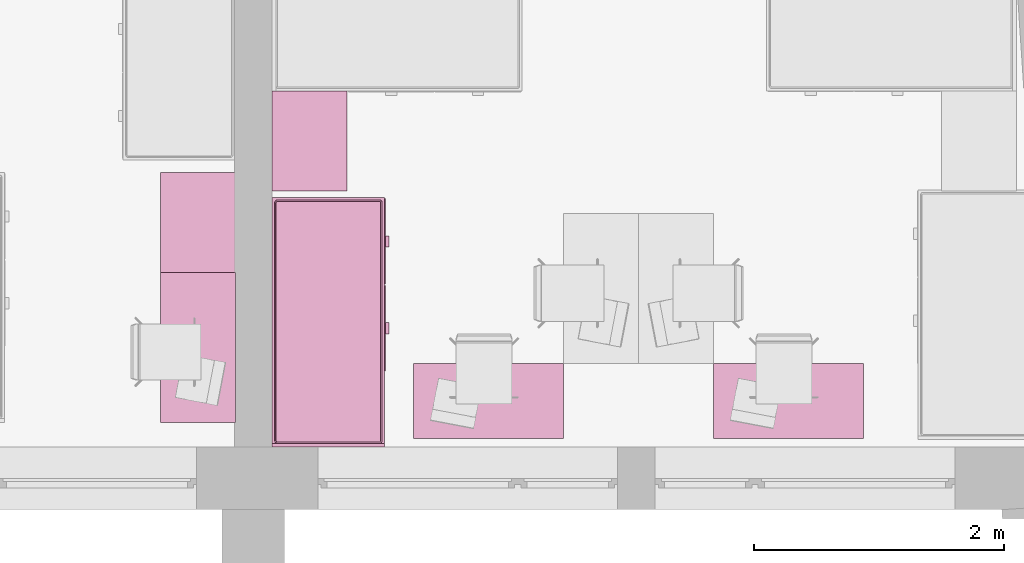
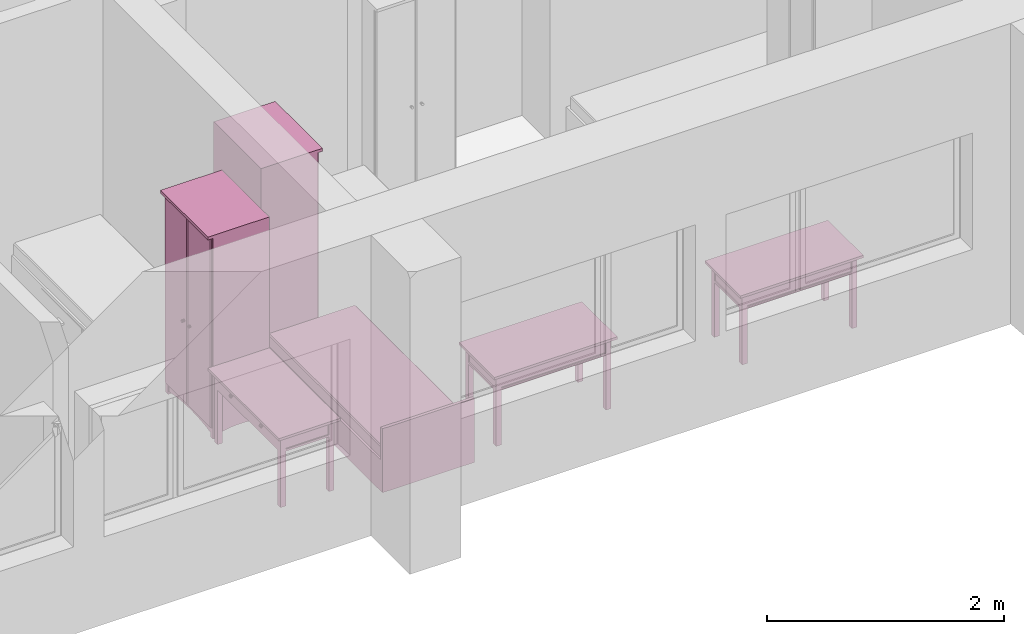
# One storey, part 145 of 172: 6 furnishings.
"""IFC2X3 building model written with IfcOpenShell, lengths in millimetres."""

from ifc_helpers import new_model, entity, si_unit, converted_unit, money_unit, direction, frame, origin_with_axes, place, context, subcontext, project, spatial, faceted_brep, source, transform, mapped, material, material_list, type_object, element, save


model = new_model("IFC2X3")

# Units and contexts
model_context = context("Model", 3, precision=1e-05, world=origin_with_axes(), true_north=direction((0.0, 1.0)))
body_context = subcontext(model_context, "Body", "Model", "MODEL_VIEW")
ifc_project = project(units=[si_unit("LENGTHUNIT", "METRE", prefix="MILLI"), si_unit("AREAUNIT", "SQUARE_METRE"), si_unit("VOLUMEUNIT", "CUBIC_METRE"), converted_unit("PLANEANGLEUNIT", "DEGREE", entity("IfcPlaneAngleMeasure", 0.0174532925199), si_unit("PLANEANGLEUNIT", "RADIAN"), dimensions=[0, 0, 0, 0, 0, 0, 0]), si_unit("SOLIDANGLEUNIT", "STERADIAN"), money_unit("USD"), converted_unit("TIMEUNIT", "Year", entity("IfcTimeMeasure", 31556926.0), si_unit("TIMEUNIT", "SECOND"), dimensions=[0, 0, 0, 0, 0, 0, 0]), si_unit("MASSUNIT", "GRAM"), si_unit("THERMODYNAMICTEMPERATUREUNIT", "DEGREE_CELSIUS"), si_unit("LUMINOUSINTENSITYUNIT", "LUMEN")], contexts=[model_context])

# Site, building, storey
site_placement = place(None, origin_with_axes())
site = spatial("IfcSite", under=ifc_project, at=site_placement, Name="Site", CompositionType="ELEMENT")
building_placement = place(site_placement, origin_with_axes())
building = spatial("IfcBuilding", under=site, at=building_placement, Name="Building", CompositionType="ELEMENT")
storey_placement = place(building_placement, frame((0.0, 0.0, 3200.0), z_axis=(0.0, 0.0, 1.0), x_axis=(1.0, 0.0, 0.0)))
storey = spatial("IfcBuildingStorey", under=building, at=storey_placement, Name="3KORRUS", CompositionType="ELEMENT", Elevation=3200.0)

# Furnishings
ifc_material = material(Name="Background")
ifc_material_list = material_list([ifc_material])
furnishing_element_type_1 = type_object("IfcFurnishingElementType", Name="Cupboard 19")
shared_shape_1 = source(origin_with_axes(), body_context, "Body", "Brep", [
    faceted_brep([(-780.0, 600.0, 120.0), (-780.0, 580.0, 120.0), (-780.0, 580.0, 2050.0), (-780.0, 600.0, 2050.0), (-20.0, 600.0, 120.0), (-20.0, 580.0, 120.0), (-20.0, 580.0, 2050.0), (-20.0, 600.0, 2050.0)], [[[0, 1, 2, 3]], [[0, 4, 5, 1]], [[1, 5, 6, 2]], [[3, 2, 6, 7]], [[4, 0, 3, 7]], [[5, 4, 7, 6]]]),
    faceted_brep([(0.0, 50.0, 100.0), (-20.0, 50.0, 100.0), (-20.0, 600.0, 100.0), (0.0, 600.0, 100.0), (0.0, 50.0, 2070.0), (-20.0, 50.0, 2070.0), (-20.0, 600.0, 2070.0), (0.0, 600.0, 2070.0)], [[[0, 1, 2, 3]], [[1, 0, 4, 5]], [[2, 1, 5, 6]], [[3, 2, 6, 7]], [[0, 3, 7, 4]], [[5, 4, 7, 6]]]),
    faceted_brep([(-780.0, 50.0, 100.0), (-800.0, 50.0, 100.0), (-800.0, 600.0, 100.0), (-780.0, 600.0, 100.0), (-780.0, 50.0, 2070.0), (-800.0, 50.0, 2070.0), (-800.0, 600.0, 2070.0), (-780.0, 600.0, 2070.0)], [[[0, 1, 2, 3]], [[1, 0, 4, 5]], [[2, 1, 5, 6]], [[3, 2, 6, 7]], [[0, 3, 7, 4]], [[5, 4, 7, 6]]]),
    faceted_brep([(-20.0, 50.0, 100.0), (-780.0, 50.0, 100.0), (-780.0, 600.0, 100.0), (-20.0, 600.0, 100.0), (-20.0, 50.0, 120.0), (-780.0, 50.0, 120.0), (-780.0, 600.0, 120.0), (-20.0, 600.0, 120.0)], [[[0, 1, 2, 3]], [[1, 0, 4, 5]], [[2, 1, 5, 6]], [[3, 2, 6, 7]], [[0, 3, 7, 4]], [[5, 4, 7, 6]]]),
    faceted_brep([(-20.0, 50.0, 2050.0), (-780.0, 50.0, 2050.0), (-780.0, 600.0, 2050.0), (-20.0, 600.0, 2050.0), (-20.0, 50.0, 2070.0), (-780.0, 50.0, 2070.0), (-780.0, 600.0, 2070.0), (-20.0, 600.0, 2070.0)], [[[0, 1, 2, 3]], [[1, 0, 4, 5]], [[2, 1, 5, 6]], [[3, 2, 6, 7]], [[0, 3, 7, 4]], [[5, 4, 7, 6]]]),
    faceted_brep([(0.0, 600.0, 2070.0), (0.0, 600.0, 2100.0), (0.0, 0.0, 2100.0), (0.0, 0.0, 2070.0), (-800.0, 600.0, 2070.0), (-800.0, 600.0, 2100.0), (-800.0, 0.0, 2100.0), (-800.0, 0.0, 2070.0)], [[[0, 1, 2, 3]], [[4, 5, 1, 0]], [[1, 5, 6, 2]], [[3, 2, 6, 7]], [[0, 3, 7, 4]], [[7, 6, 5, 4]]]),
    faceted_brep([(-760.0, 590.0, 25.0), (-640.962, 590.0, 45.8), (-640.962, 570.0, 45.8), (-760.0, 570.0, 25.0), (-760.0, 590.0, 100.0), (-40.0, 590.0, 100.0), (-40.0, 590.0, 25.0), (-159.038, 590.0, 45.8), (-279.23, 590.0, 58.32), (-400.0, 590.0, 62.5), (-520.77, 590.0, 58.32), (-520.77, 570.0, 58.32), (-400.0, 570.0, 62.5), (-279.23, 570.0, 58.32), (-159.038, 570.0, 45.8), (-40.0, 570.0, 25.0), (-40.0, 570.0, 100.0), (-760.0, 570.0, 100.0)], [[[0, 1, 2, 3]], [[0, 4, 5, 6, 7, 8, 9, 10, 1]], [[1, 10, 11, 2]], [[3, 2, 11, 12, 13, 14, 15, 16, 17]], [[4, 0, 3, 17]], [[5, 4, 17, 16]], [[6, 5, 16, 15]], [[7, 6, 15, 14]], [[8, 7, 14, 13]], [[9, 8, 13, 12]], [[10, 9, 12, 11]]]),
    faceted_brep([(-760.0, 80.0, 25.0), (-640.962, 80.0, 45.8), (-640.962, 60.0, 45.8), (-760.0, 60.0, 25.0), (-760.0, 80.0, 100.0), (-40.0, 80.0, 100.0), (-40.0, 80.0, 25.0), (-159.038, 80.0, 45.8), (-279.23, 80.0, 58.32), (-400.0, 80.0, 62.5), (-520.77, 80.0, 58.32), (-520.77, 60.0, 58.32), (-400.0, 60.0, 62.5), (-279.23, 60.0, 58.32), (-159.038, 60.0, 45.8), (-40.0, 60.0, 25.0), (-40.0, 60.0, 100.0), (-760.0, 60.0, 100.0)], [[[0, 1, 2, 3]], [[0, 4, 5, 6, 7, 8, 9, 10, 1]], [[1, 10, 11, 2]], [[3, 2, 11, 12, 13, 14, 15, 16, 17]], [[4, 0, 3, 17]], [[5, 4, 17, 16]], [[6, 5, 16, 15]], [[7, 6, 15, 14]], [[8, 7, 14, 13]], [[9, 8, 13, 12]], [[10, 9, 12, 11]]]),
    faceted_brep([(-790.0, 90.0, 25.0), (-790.0, 141.266, 38.072), (-770.0, 141.266, 38.072), (-770.0, 90.0, 25.0), (-790.0, 90.0, 100.0), (-790.0, 560.0, 100.0), (-790.0, 560.0, 25.0), (-790.0, 508.734, 38.072), (-790.0, 456.752, 47.92), (-790.0, 404.257, 54.508), (-790.0, 351.453, 57.808), (-790.0, 298.547, 57.808), (-790.0, 245.743, 54.508), (-790.0, 193.248, 47.92), (-770.0, 193.248, 47.92), (-770.0, 245.743, 54.508), (-770.0, 298.547, 57.808), (-770.0, 351.453, 57.808), (-770.0, 404.257, 54.508), (-770.0, 456.752, 47.92), (-770.0, 508.734, 38.072), (-770.0, 560.0, 25.0), (-770.0, 560.0, 100.0), (-770.0, 90.0, 100.0)], [[[0, 1, 2, 3]], [[0, 4, 5, 6, 7, 8, 9, 10, 11, 12, 13, 1]], [[1, 13, 14, 2]], [[3, 2, 14, 15, 16, 17, 18, 19, 20, 21, 22, 23]], [[4, 0, 3, 23]], [[5, 4, 23, 22]], [[6, 5, 22, 21]], [[7, 6, 21, 20]], [[8, 7, 20, 19]], [[9, 8, 19, 18]], [[10, 9, 18, 17]], [[11, 10, 17, 16]], [[12, 11, 16, 15]], [[13, 12, 15, 14]]]),
    faceted_brep([(-30.0, 90.0, 25.0), (-30.0, 141.266, 38.072), (-10.0, 141.266, 38.072), (-10.0, 90.0, 25.0), (-30.0, 90.0, 100.0), (-30.0, 560.0, 100.0), (-30.0, 560.0, 25.0), (-30.0, 508.734, 38.072), (-30.0, 456.752, 47.92), (-30.0, 404.257, 54.508), (-30.0, 351.453, 57.808), (-30.0, 298.547, 57.808), (-30.0, 245.743, 54.508), (-30.0, 193.248, 47.92), (-10.0, 193.248, 47.92), (-10.0, 245.743, 54.508), (-10.0, 298.547, 57.808), (-10.0, 351.453, 57.808), (-10.0, 404.257, 54.508), (-10.0, 456.752, 47.92), (-10.0, 508.734, 38.072), (-10.0, 560.0, 25.0), (-10.0, 560.0, 100.0), (-10.0, 90.0, 100.0)], [[[0, 1, 2, 3]], [[0, 4, 5, 6, 7, 8, 9, 10, 11, 12, 13, 1]], [[1, 13, 14, 2]], [[3, 2, 14, 15, 16, 17, 18, 19, 20, 21, 22, 23]], [[4, 0, 3, 23]], [[5, 4, 23, 22]], [[6, 5, 22, 21]], [[7, 6, 21, 20]], [[8, 7, 20, 19]], [[9, 8, 19, 18]], [[10, 9, 18, 17]], [[11, 10, 17, 16]], [[12, 11, 16, 15]], [[13, 12, 15, 14]]]),
    faceted_brep([(-760.0, 560.0, 0.0), (-760.0, 600.0, 0.0), (-760.0, 600.0, 100.0), (-760.0, 560.0, 100.0), (-800.0, 560.0, 0.0), (-800.0, 600.0, 0.0), (-800.0, 600.0, 100.0), (-800.0, 560.0, 100.0)], [[[0, 1, 2, 3]], [[0, 4, 5, 1]], [[1, 5, 6, 2]], [[3, 2, 6, 7]], [[4, 0, 3, 7]], [[5, 4, 7, 6]]]),
    faceted_brep([(0.0, 560.0, 0.0), (0.0, 600.0, 0.0), (0.0, 600.0, 100.0), (0.0, 560.0, 100.0), (-40.0, 560.0, 0.0), (-40.0, 600.0, 0.0), (-40.0, 600.0, 100.0), (-40.0, 560.0, 100.0)], [[[0, 1, 2, 3]], [[0, 4, 5, 1]], [[1, 5, 6, 2]], [[3, 2, 6, 7]], [[4, 0, 3, 7]], [[5, 4, 7, 6]]]),
    faceted_brep([(-760.0, 50.0, 0.0), (-760.0, 90.0, 0.0), (-760.0, 90.0, 100.0), (-760.0, 50.0, 100.0), (-800.0, 50.0, 0.0), (-800.0, 90.0, 0.0), (-800.0, 90.0, 100.0), (-800.0, 50.0, 100.0)], [[[0, 1, 2, 3]], [[0, 4, 5, 1]], [[1, 5, 6, 2]], [[3, 2, 6, 7]], [[4, 0, 3, 7]], [[5, 4, 7, 6]]]),
    faceted_brep([(0.0, 50.0, 0.0), (0.0, 90.0, 0.0), (0.0, 90.0, 100.0), (0.0, 50.0, 100.0), (-40.0, 50.0, 0.0), (-40.0, 90.0, 0.0), (-40.0, 90.0, 100.0), (-40.0, 50.0, 100.0)], [[[0, 1, 2, 3]], [[0, 4, 5, 1]], [[1, 5, 6, 2]], [[3, 2, 6, 7]], [[4, 0, 3, 7]], [[5, 4, 7, 6]]]),
    faceted_brep([(-780.0, 580.0, 587.5), (-780.0, 50.0, 587.5), (-780.0, 50.0, 607.5), (-780.0, 580.0, 607.5), (-20.0, 580.0, 587.5), (-20.0, 50.0, 587.5), (-20.0, 50.0, 607.5), (-20.0, 580.0, 607.5)], [[[0, 1, 2, 3]], [[0, 4, 5, 1]], [[1, 5, 6, 2]], [[3, 2, 6, 7]], [[4, 0, 3, 7]], [[5, 4, 7, 6]]]),
    faceted_brep([(-780.0, 580.0, 1075.0), (-780.0, 50.0, 1075.0), (-780.0, 50.0, 1095.0), (-780.0, 580.0, 1095.0), (-20.0, 580.0, 1075.0), (-20.0, 50.0, 1075.0), (-20.0, 50.0, 1095.0), (-20.0, 580.0, 1095.0)], [[[0, 1, 2, 3]], [[0, 4, 5, 1]], [[1, 5, 6, 2]], [[3, 2, 6, 7]], [[4, 0, 3, 7]], [[5, 4, 7, 6]]]),
    faceted_brep([(-780.0, 580.0, 1562.5), (-780.0, 50.0, 1562.5), (-780.0, 50.0, 1582.5), (-780.0, 580.0, 1582.5), (-20.0, 580.0, 1562.5), (-20.0, 50.0, 1562.5), (-20.0, 50.0, 1582.5), (-20.0, 580.0, 1582.5)], [[[0, 1, 2, 3]], [[0, 4, 5, 1]], [[1, 5, 6, 2]], [[3, 2, 6, 7]], [[4, 0, 3, 7]], [[5, 4, 7, 6]]]),
    faceted_brep([(-789.5, 50.0, 110.5), (-789.5, 50.0, 2059.5), (-400.5, 50.0, 2059.5), (-400.5, 50.0, 110.5), (-789.5, 40.0, 110.5), (-789.5, 40.0, 2059.5), (-400.5, 40.0, 2059.5), (-400.5, 40.0, 110.5), (-779.5, 30.0, 120.5), (-779.5, 30.0, 2049.5), (-410.5, 30.0, 2049.5), (-410.5, 30.0, 120.5)], [[[0, 1, 2, 3]], [[1, 0, 4, 5]], [[2, 1, 5, 6]], [[3, 2, 6, 7]], [[0, 3, 7, 4]], [[5, 4, 8, 9]], [[6, 5, 9, 10]], [[7, 6, 10, 11]], [[4, 7, 11, 8]], [[10, 9, 8, 11]]]),
    faceted_brep([(-399.5, 50.0, 110.5), (-399.5, 50.0, 2059.5), (-10.5, 50.0, 2059.5), (-10.5, 50.0, 110.5), (-399.5, 40.0, 110.5), (-399.5, 40.0, 2059.5), (-10.5, 40.0, 2059.5), (-10.5, 40.0, 110.5), (-389.5, 30.0, 120.5), (-389.5, 30.0, 2049.5), (-20.5, 30.0, 2049.5), (-20.5, 30.0, 120.5)], [[[0, 1, 2, 3]], [[1, 0, 4, 5]], [[2, 1, 5, 6]], [[3, 2, 6, 7]], [[0, 3, 7, 4]], [[5, 4, 8, 9]], [[6, 5, 9, 10]], [[7, 6, 10, 11]], [[4, 7, 11, 8]], [[10, 9, 8, 11]]]),
    faceted_brep([(-339.608, 30.0, 954.0), (-344.0, 30.0, 949.608), (-350.0, 30.0, 948.0), (-356.0, 30.0, 949.608), (-360.392, 30.0, 954.0), (-362.0, 30.0, 960.0), (-360.392, 30.0, 966.0), (-356.0, 30.0, 970.392), (-350.0, 30.0, 972.0), (-344.0, 30.0, 970.392), (-339.608, 30.0, 966.0), (-338.0, 30.0, 960.0), (-339.608, 5.0, 954.0), (-344.0, 5.0, 949.608), (-350.0, 5.0, 948.0), (-356.0, 5.0, 949.608), (-360.392, 5.0, 954.0), (-362.0, 5.0, 960.0), (-360.392, 5.0, 966.0), (-356.0, 5.0, 970.392), (-350.0, 5.0, 972.0), (-344.0, 5.0, 970.392), (-339.608, 5.0, 966.0), (-338.0, 5.0, 960.0)], [[[0, 1, 2, 3, 4, 5, 6, 7, 8, 9, 10, 11]], [[1, 0, 12, 13]], [[2, 1, 13, 14]], [[3, 2, 14, 15]], [[4, 3, 15, 16]], [[5, 4, 16, 17]], [[6, 5, 17, 18]], [[7, 6, 18, 19]], [[8, 7, 19, 20]], [[9, 8, 20, 21]], [[10, 9, 21, 22]], [[11, 10, 22, 23]], [[0, 11, 23, 12]], [[12, 23, 22, 21, 20, 19, 18, 17, 16, 15, 14, 13]]]),
    faceted_brep([(-460.392, 30.0, 954.0), (-462.0, 30.0, 960.0), (-460.392, 30.0, 966.0), (-456.0, 30.0, 970.392), (-450.0, 30.0, 972.0), (-444.0, 30.0, 970.392), (-439.608, 30.0, 966.0), (-438.0, 30.0, 960.0), (-439.608, 30.0, 954.0), (-444.0, 30.0, 949.608), (-450.0, 30.0, 948.0), (-456.0, 30.0, 949.608), (-460.392, 5.0, 954.0), (-462.0, 5.0, 960.0), (-460.392, 5.0, 966.0), (-456.0, 5.0, 970.392), (-450.0, 5.0, 972.0), (-444.0, 5.0, 970.392), (-439.608, 5.0, 966.0), (-438.0, 5.0, 960.0), (-439.608, 5.0, 954.0), (-444.0, 5.0, 949.608), (-450.0, 5.0, 948.0), (-456.0, 5.0, 949.608)], [[[0, 1, 2, 3, 4, 5, 6, 7, 8, 9, 10, 11]], [[0, 12, 13, 1]], [[1, 13, 14, 2]], [[2, 14, 15, 3]], [[3, 15, 16, 4]], [[4, 16, 17, 5]], [[5, 17, 18, 6]], [[6, 18, 19, 7]], [[7, 19, 20, 8]], [[8, 20, 21, 9]], [[9, 21, 22, 10]], [[10, 22, 23, 11]], [[11, 23, 12, 0]], [[12, 23, 22, 21, 20, 19, 18, 17, 16, 15, 14, 13]]]),
])
for number, where, z_axis, x_axis, name in (
    (1, (11115.991692, -18239.2398994, 0.0), (0.0, 0.0, 1.0), (0.0, -1.0, 0.0), "FU - 014"),
    (2, (12609.7032967, -16789.0262806, 0.0), (0.0, 0.0, 1.0), (0.0, 1.0, 0.0), "FU - 014"),
):
    element("IfcFurnishingElement", number, at=place(storey_placement, frame(where, z_axis=z_axis, x_axis=x_axis)), inside=storey, type_object=furnishing_element_type_1, material=ifc_material_list, Name=name, context=body_context, shape_type="MappedRepresentation", body=[
        mapped(shared_shape_1, transform((0.0, 0.0, 0.0))),
    ])
furnishing_element_type_2 = type_object("IfcFurnishingElementType", Name="Bed 19")
shared_shape_2 = source(origin_with_axes(), body_context, "Body", "Brep", [
    faceted_brep([(-900.0, 1970.0, 0.0), (-900.0, 2000.0, 0.0), (0.0, 2000.0, 0.0), (0.0, 1970.0, 0.0), (-900.0, 1970.0, 660.0), (-900.0, 2000.0, 660.0), (0.0, 2000.0, 660.0), (0.0, 1970.0, 660.0)], [[[0, 1, 2, 3]], [[0, 4, 5, 1]], [[1, 5, 6, 2]], [[2, 6, 7, 3]], [[3, 7, 4, 0]], [[7, 6, 5, 4]]]),
    faceted_brep([(-900.0, 0.0, 0.0), (-900.0, 1970.0, 0.0), (0.0, 1970.0, 0.0), (0.0, 0.0, 0.0), (-900.0, 0.0, 320.0), (-900.0, 1970.0, 320.0), (0.0, 1970.0, 320.0), (0.0, 0.0, 320.0)], [[[0, 1, 2, 3]], [[0, 4, 5, 1]], [[1, 5, 6, 2]], [[2, 6, 7, 3]], [[3, 7, 4, 0]], [[7, 6, 5, 4]]]),
    faceted_brep([(-905.0, 10.0, 30.0), (-905.0, 695.0, 30.0), (-900.0, 695.0, 30.0), (-900.0, 10.0, 30.0), (-905.0, 10.0, 290.0), (-905.0, 695.0, 290.0), (-900.0, 695.0, 290.0), (-900.0, 10.0, 290.0)], [[[0, 1, 2, 3]], [[0, 4, 5, 1]], [[1, 5, 6, 2]], [[2, 6, 7, 3]], [[3, 7, 4, 0]], [[7, 6, 5, 4]]]),
    faceted_brep([(-935.0, 307.5, 150.0), (-935.0, 397.5, 150.0), (-905.0, 397.5, 150.0), (-905.0, 307.5, 150.0), (-935.0, 307.5, 170.0), (-935.0, 397.5, 170.0), (-905.0, 397.5, 170.0), (-905.0, 307.5, 170.0)], [[[0, 1, 2, 3]], [[0, 4, 5, 1]], [[1, 5, 6, 2]], [[2, 6, 7, 3]], [[3, 7, 4, 0]], [[7, 6, 5, 4]]]),
    faceted_brep([(-905.0, 705.0, 30.0), (-905.0, 1390.0, 30.0), (-900.0, 1390.0, 30.0), (-900.0, 705.0, 30.0), (-905.0, 705.0, 290.0), (-905.0, 1390.0, 290.0), (-900.0, 1390.0, 290.0), (-900.0, 705.0, 290.0)], [[[0, 1, 2, 3]], [[0, 4, 5, 1]], [[1, 5, 6, 2]], [[2, 6, 7, 3]], [[3, 7, 4, 0]], [[7, 6, 5, 4]]]),
    faceted_brep([(-935.0, 1002.5, 150.0), (-935.0, 1092.5, 150.0), (-905.0, 1092.5, 150.0), (-905.0, 1002.5, 150.0), (-935.0, 1002.5, 170.0), (-935.0, 1092.5, 170.0), (-905.0, 1092.5, 170.0), (-905.0, 1002.5, 170.0)], [[[0, 1, 2, 3]], [[0, 4, 5, 1]], [[1, 5, 6, 2]], [[2, 6, 7, 3]], [[3, 7, 4, 0]], [[7, 6, 5, 4]]]),
    faceted_brep([(-20.0, 40.0, 350.0), (-21.522, 32.346, 350.0), (-25.858, 25.858, 350.0), (-32.346, 21.522, 350.0), (-40.0, 20.0, 350.0), (-860.0, 20.0, 350.0), (-867.654, 21.522, 350.0), (-874.142, 25.858, 350.0), (-878.478, 32.346, 350.0), (-880.0, 40.0, 350.0), (-880.0, 1950.0, 350.0), (-878.478, 1957.654, 350.0), (-874.142, 1964.142, 350.0), (-867.654, 1968.478, 350.0), (-860.0, 1970.0, 350.0), (-40.0, 1970.0, 350.0), (-32.346, 1968.478, 350.0), (-25.858, 1964.142, 350.0), (-21.522, 1957.654, 350.0), (-20.0, 1950.0, 350.0), (-20.0, 40.0, 420.0), (-21.522, 32.346, 420.0), (-25.858, 25.858, 420.0), (-32.346, 21.522, 420.0), (-40.0, 20.0, 420.0), (-860.0, 20.0, 420.0), (-867.654, 21.522, 420.0), (-874.142, 25.858, 420.0), (-878.478, 32.346, 420.0), (-880.0, 40.0, 420.0), (-880.0, 1950.0, 420.0), (-878.478, 1957.654, 420.0), (-874.142, 1964.142, 420.0), (-867.654, 1968.478, 420.0), (-860.0, 1970.0, 420.0), (-40.0, 1970.0, 420.0), (-32.346, 1968.478, 420.0), (-25.858, 1964.142, 420.0), (-21.522, 1957.654, 420.0), (-20.0, 1950.0, 420.0), (-21.522, 40.15, 427.654), (-22.956, 32.94, 427.654), (-26.955, 26.955, 427.654), (-32.94, 22.956, 427.654), (-40.15, 21.522, 427.654), (-859.85, 21.522, 427.654), (-867.06, 22.956, 427.654), (-873.045, 26.955, 427.654), (-877.044, 32.94, 427.654), (-878.478, 40.15, 427.654), (-878.478, 1949.85, 427.654), (-877.044, 1957.06, 427.654), (-873.045, 1963.045, 427.654), (-867.06, 1967.044, 427.654), (-859.85, 1968.478, 427.654), (-40.15, 1968.478, 427.654), (-32.94, 1967.044, 427.654), (-26.955, 1963.045, 427.654), (-22.956, 1957.06, 427.654), (-21.522, 1949.85, 427.654), (-32.346, 41.216, 438.478), (-33.152, 37.164, 438.478), (-34.759, 34.759, 438.478), (-37.164, 33.152, 438.478), (-41.216, 32.346, 438.478), (-858.784, 32.346, 438.478), (-862.836, 33.152, 438.478), (-865.241, 34.759, 438.478), (-866.848, 37.164, 438.478), (-867.654, 41.216, 438.478), (-867.654, 1948.784, 438.478), (-866.848, 1952.836, 438.478), (-865.241, 1955.241, 438.478), (-862.836, 1956.848, 438.478), (-858.784, 1957.654, 438.478), (-41.216, 1957.654, 438.478), (-37.164, 1956.848, 438.478), (-34.759, 1955.241, 438.478), (-33.152, 1952.836, 438.478), (-32.346, 1948.784, 438.478), (-40.0, 41.97, 440.0), (-40.327, 40.327, 440.0), (-40.0, 40.0, 439.924), (-41.97, 40.0, 440.0), (-858.03, 40.0, 440.0), (-859.673, 40.327, 440.0), (-860.0, 40.0, 439.924), (-860.0, 41.97, 440.0), (-860.0, 1948.03, 440.0), (-859.673, 1949.673, 440.0), (-860.0, 1950.0, 439.924), (-858.03, 1950.0, 440.0), (-41.97, 1950.0, 440.0), (-40.327, 1949.673, 440.0), (-40.0, 1950.0, 439.924), (-40.0, 1948.03, 440.0)], [[[0, 1, 2, 3, 4, 5, 6, 7, 8, 9, 10, 11, 12, 13, 14, 15, 16, 17, 18, 19]], [[0, 20, 21, 1]], [[1, 21, 22, 2]], [[2, 22, 23, 3]], [[3, 23, 24, 4]], [[4, 24, 25, 5]], [[5, 25, 26, 6]], [[6, 26, 27, 7]], [[7, 27, 28, 8]], [[8, 28, 29, 9]], [[9, 29, 30, 10]], [[10, 30, 31, 11]], [[11, 31, 32, 12]], [[12, 32, 33, 13]], [[13, 33, 34, 14]], [[14, 34, 35, 15]], [[15, 35, 36, 16]], [[16, 36, 37, 17]], [[17, 37, 38, 18]], [[18, 38, 39, 19]], [[19, 39, 20, 0]], [[20, 40, 41, 21]], [[21, 41, 42, 22]], [[22, 42, 43, 23]], [[23, 43, 44, 24]], [[24, 44, 45, 25]], [[25, 45, 46, 26]], [[26, 46, 47, 27]], [[27, 47, 48, 28]], [[28, 48, 49, 29]], [[29, 49, 50, 30]], [[30, 50, 51, 31]], [[31, 51, 52, 32]], [[32, 52, 53, 33]], [[33, 53, 54, 34]], [[34, 54, 55, 35]], [[35, 55, 56, 36]], [[36, 56, 57, 37]], [[37, 57, 58, 38]], [[38, 58, 59, 39]], [[39, 59, 40, 20]], [[40, 60, 61, 41]], [[41, 61, 62, 42]], [[42, 62, 63, 43]], [[43, 63, 64, 44]], [[44, 64, 65, 45]], [[45, 65, 66, 46]], [[46, 66, 67, 47]], [[47, 67, 68, 48]], [[48, 68, 69, 49]], [[49, 69, 70, 50]], [[50, 70, 71, 51]], [[51, 71, 72, 52]], [[52, 72, 73, 53]], [[53, 73, 74, 54]], [[54, 74, 75, 55]], [[55, 75, 76, 56]], [[56, 76, 77, 57]], [[57, 77, 78, 58]], [[58, 78, 79, 59]], [[59, 79, 60, 40]], [[60, 80, 81, 82, 61]], [[61, 82, 62]], [[62, 82, 63]], [[63, 82, 81, 83, 64]], [[64, 83, 84, 65]], [[65, 84, 85, 86, 66]], [[66, 86, 67]], [[67, 86, 68]], [[68, 86, 85, 87, 69]], [[69, 87, 88, 70]], [[70, 88, 89, 90, 71]], [[71, 90, 72]], [[72, 90, 73]], [[73, 90, 89, 91, 74]], [[74, 91, 92, 75]], [[75, 92, 93, 94, 76]], [[76, 94, 77]], [[77, 94, 78]], [[78, 94, 93, 95, 79]], [[79, 95, 80, 60]], [[95, 93, 92, 91, 89, 88, 87, 85, 84, 83, 81, 80]]]),
    faceted_brep([(-20.0, 40.0, 350.0), (-20.0, 1950.0, 350.0), (-21.522, 1957.654, 350.0), (-25.858, 1964.142, 350.0), (-32.346, 1968.478, 350.0), (-40.0, 1970.0, 350.0), (-860.0, 1970.0, 350.0), (-867.654, 1968.478, 350.0), (-874.142, 1964.142, 350.0), (-878.478, 1957.654, 350.0), (-880.0, 1950.0, 350.0), (-880.0, 40.0, 350.0), (-878.478, 32.346, 350.0), (-874.142, 25.858, 350.0), (-867.654, 21.522, 350.0), (-860.0, 20.0, 350.0), (-40.0, 20.0, 350.0), (-32.346, 21.522, 350.0), (-25.858, 25.858, 350.0), (-21.522, 32.346, 350.0), (-20.0, 40.0, 320.0), (-20.0, 1950.0, 320.0), (-21.522, 1957.654, 320.0), (-25.858, 1964.142, 320.0), (-32.346, 1968.478, 320.0), (-40.0, 1970.0, 320.0), (-860.0, 1970.0, 320.0), (-867.654, 1968.478, 320.0), (-874.142, 1964.142, 320.0), (-878.478, 1957.654, 320.0), (-880.0, 1950.0, 320.0), (-880.0, 40.0, 320.0), (-878.478, 32.346, 320.0), (-874.142, 25.858, 320.0), (-867.654, 21.522, 320.0), (-860.0, 20.0, 320.0), (-40.0, 20.0, 320.0), (-32.346, 21.522, 320.0), (-25.858, 25.858, 320.0), (-21.522, 32.346, 320.0)], [[[0, 1, 2, 3, 4, 5, 6, 7, 8, 9, 10, 11, 12, 13, 14, 15, 16, 17, 18, 19]], [[1, 0, 20, 21]], [[2, 1, 21, 22]], [[3, 2, 22, 23]], [[4, 3, 23, 24]], [[5, 4, 24, 25]], [[6, 5, 25, 26]], [[7, 6, 26, 27]], [[8, 7, 27, 28]], [[9, 8, 28, 29]], [[10, 9, 29, 30]], [[11, 10, 30, 31]], [[12, 11, 31, 32]], [[13, 12, 32, 33]], [[14, 13, 33, 34]], [[15, 14, 34, 35]], [[16, 15, 35, 36]], [[17, 16, 36, 37]], [[18, 17, 37, 38]], [[19, 18, 38, 39]], [[0, 19, 39, 20]], [[20, 39, 38, 37, 36, 35, 34, 33, 32, 31, 30, 29, 28, 27, 26, 25, 24, 23, 22, 21]]]),
])
furnishing_placement = place(storey_placement, frame((12009.7032967, -17639.2398994, 0.0), z_axis=(0.0, 0.0, 1.0), x_axis=(-1.0, 0.0, 0.0)))
element("IfcFurnishingElement", 3, at=furnishing_placement, inside=storey, type_object=furnishing_element_type_2, material=ifc_material_list, Name="FU - 013", context=body_context, shape_type="MappedRepresentation", body=[
    mapped(shared_shape_2, transform((0.0, 0.0, 0.0))),
])
furnishing_element_type_3 = type_object("IfcFurnishingElementType", Name="Rectangular Table 01 19")
shared_shape_3 = source(origin_with_axes(), body_context, "Body", "Brep", [
    faceted_brep([(-90.0, 40.0, 0.0), (-90.0, 90.0, 0.0), (-40.0, 90.0, 0.0), (-40.0, 40.0, 0.0), (-90.0, 40.0, 725.0), (-90.0, 90.0, 725.0), (-40.0, 90.0, 725.0), (-40.0, 40.0, 725.0)], [[[0, 1, 2, 3]], [[0, 4, 5, 1]], [[1, 5, 6, 2]], [[2, 6, 7, 3]], [[3, 7, 4, 0]], [[7, 6, 5, 4]]]),
    faceted_brep([(-1160.0, 40.0, 0.0), (-1160.0, 90.0, 0.0), (-1110.0, 90.0, 0.0), (-1110.0, 40.0, 0.0), (-1160.0, 40.0, 725.0), (-1160.0, 90.0, 725.0), (-1110.0, 90.0, 725.0), (-1110.0, 40.0, 725.0)], [[[0, 1, 2, 3]], [[0, 4, 5, 1]], [[1, 5, 6, 2]], [[2, 6, 7, 3]], [[3, 7, 4, 0]], [[7, 6, 5, 4]]]),
    faceted_brep([(-90.0, 510.0, 0.0), (-90.0, 560.0, 0.0), (-40.0, 560.0, 0.0), (-40.0, 510.0, 0.0), (-90.0, 510.0, 725.0), (-90.0, 560.0, 725.0), (-40.0, 560.0, 725.0), (-40.0, 510.0, 725.0)], [[[0, 1, 2, 3]], [[0, 4, 5, 1]], [[1, 5, 6, 2]], [[2, 6, 7, 3]], [[3, 7, 4, 0]], [[7, 6, 5, 4]]]),
    faceted_brep([(-1160.0, 510.0, 0.0), (-1160.0, 560.0, 0.0), (-1110.0, 560.0, 0.0), (-1110.0, 510.0, 0.0), (-1160.0, 510.0, 725.0), (-1160.0, 560.0, 725.0), (-1110.0, 560.0, 725.0), (-1110.0, 510.0, 725.0)], [[[0, 1, 2, 3]], [[0, 4, 5, 1]], [[1, 5, 6, 2]], [[2, 6, 7, 3]], [[3, 7, 4, 0]], [[7, 6, 5, 4]]]),
    faceted_brep([(-1160.0, 40.0, 565.0), (-1160.0, 560.0, 565.0), (-40.0, 560.0, 565.0), (-40.0, 40.0, 565.0), (-1160.0, 40.0, 585.0), (-1160.0, 560.0, 585.0), (-40.0, 560.0, 585.0), (-40.0, 40.0, 585.0)], [[[0, 1, 2, 3]], [[0, 4, 5, 1]], [[1, 5, 6, 2]], [[2, 6, 7, 3]], [[3, 7, 4, 0]], [[7, 6, 5, 4]]]),
    faceted_brep([(-1110.0, 52.5, 585.0), (-1110.0, 77.5, 585.0), (-90.0, 77.5, 585.0), (-90.0, 52.5, 585.0), (-1110.0, 52.5, 745.0), (-1110.0, 77.5, 745.0), (-90.0, 77.5, 745.0), (-90.0, 52.5, 745.0)], [[[0, 1, 2, 3]], [[0, 4, 5, 1]], [[1, 5, 6, 2]], [[2, 6, 7, 3]], [[3, 7, 4, 0]], [[7, 6, 5, 4]]]),
    faceted_brep([(-77.5, 90.0, 585.0), (-77.5, 510.0, 585.0), (-52.5, 510.0, 585.0), (-52.5, 90.0, 585.0), (-77.5, 90.0, 745.0), (-77.5, 510.0, 745.0), (-52.5, 510.0, 745.0), (-52.5, 90.0, 745.0)], [[[0, 1, 2, 3]], [[0, 4, 5, 1]], [[1, 5, 6, 2]], [[2, 6, 7, 3]], [[3, 7, 4, 0]], [[7, 6, 5, 4]]]),
    faceted_brep([(-90.0, 547.5, 585.0), (-90.0, 522.5, 585.0), (-1110.0, 522.5, 585.0), (-1110.0, 547.5, 585.0), (-90.0, 547.5, 745.0), (-90.0, 522.5, 745.0), (-1110.0, 522.5, 745.0), (-1110.0, 547.5, 745.0)], [[[0, 1, 2, 3]], [[0, 4, 5, 1]], [[1, 5, 6, 2]], [[2, 6, 7, 3]], [[3, 7, 4, 0]], [[7, 6, 5, 4]]]),
    faceted_brep([(-1122.5, 510.0, 585.0), (-1122.5, 90.0, 585.0), (-1147.5, 90.0, 585.0), (-1147.5, 510.0, 585.0), (-1122.5, 510.0, 745.0), (-1122.5, 90.0, 745.0), (-1147.5, 90.0, 745.0), (-1147.5, 510.0, 745.0)], [[[0, 1, 2, 3]], [[0, 4, 5, 1]], [[1, 5, 6, 2]], [[2, 6, 7, 3]], [[3, 7, 4, 0]], [[7, 6, 5, 4]]]),
    faceted_brep([(-597.5, 40.0, 585.0), (-597.5, 60.0, 585.0), (-95.0, 60.0, 585.0), (-95.0, 40.0, 585.0), (-597.5, 40.0, 745.0), (-597.5, 60.0, 745.0), (-95.0, 60.0, 745.0), (-95.0, 40.0, 745.0)], [[[0, 1, 2, 3]], [[0, 4, 5, 1]], [[1, 5, 6, 2]], [[2, 6, 7, 3]], [[3, 7, 4, 0]], [[7, 6, 5, 4]]]),
    faceted_brep([(-1105.0, 40.0, 585.0), (-1105.0, 60.0, 585.0), (-602.5, 60.0, 585.0), (-602.5, 40.0, 585.0), (-1105.0, 40.0, 745.0), (-1105.0, 60.0, 745.0), (-602.5, 60.0, 745.0), (-602.5, 40.0, 745.0)], [[[0, 1, 2, 3]], [[0, 4, 5, 1]], [[1, 5, 6, 2]], [[2, 6, 7, 3]], [[3, 7, 4, 0]], [[7, 6, 5, 4]]]),
    faceted_brep([(-354.91, 40.0, 660.0), (-356.25, 40.0, 665.0), (-354.91, 40.0, 670.0), (-351.25, 40.0, 673.66), (-346.25, 40.0, 675.0), (-341.25, 40.0, 673.66), (-337.59, 40.0, 670.0), (-336.25, 40.0, 665.0), (-337.59, 40.0, 660.0), (-341.25, 40.0, 656.34), (-346.25, 40.0, 655.0), (-351.25, 40.0, 656.34), (-354.91, 25.0, 660.0), (-356.25, 25.0, 665.0), (-354.91, 25.0, 670.0), (-351.25, 25.0, 673.66), (-346.25, 25.0, 675.0), (-341.25, 25.0, 673.66), (-337.59, 25.0, 670.0), (-336.25, 25.0, 665.0), (-337.59, 25.0, 660.0), (-341.25, 25.0, 656.34), (-346.25, 25.0, 655.0), (-351.25, 25.0, 656.34)], [[[0, 1, 2, 3, 4, 5, 6, 7, 8, 9, 10, 11]], [[0, 12, 13, 1]], [[1, 13, 14, 2]], [[2, 14, 15, 3]], [[3, 15, 16, 4]], [[4, 16, 17, 5]], [[5, 17, 18, 6]], [[6, 18, 19, 7]], [[7, 19, 20, 8]], [[8, 20, 21, 9]], [[9, 21, 22, 10]], [[10, 22, 23, 11]], [[11, 23, 12, 0]], [[12, 23, 22, 21, 20, 19, 18, 17, 16, 15, 14, 13]]]),
    faceted_brep([(-356.25, 12.01, 665.0), (-354.91, 12.01, 660.0), (-346.25, 10.0, 665.0), (-363.571, 17.5, 665.0), (-361.25, 17.5, 656.34), (-351.25, 12.01, 656.34), (-354.91, 12.01, 670.0), (-366.25, 25.0, 665.0), (-363.571, 25.0, 655.0), (-354.91, 17.5, 650.0), (-361.25, 17.5, 673.66), (-346.25, 12.01, 655.0), (-351.25, 12.01, 673.66), (-363.571, 25.0, 675.0), (-356.25, 25.0, 682.321), (-346.25, 25.0, 685.0), (-336.25, 25.0, 682.321), (-328.929, 25.0, 675.0), (-326.25, 25.0, 665.0), (-328.929, 25.0, 655.0), (-336.25, 25.0, 647.679), (-346.25, 25.0, 645.0), (-356.25, 25.0, 647.679), (-346.25, 17.5, 647.679), (-354.91, 17.5, 680.0), (-341.25, 12.01, 656.34), (-346.25, 12.01, 675.0), (-346.25, 17.5, 682.321), (-337.59, 17.5, 680.0), (-331.25, 17.5, 673.66), (-328.929, 17.5, 665.0), (-331.25, 17.5, 656.34), (-337.59, 17.5, 650.0), (-337.59, 12.01, 660.0), (-341.25, 12.01, 673.66), (-337.59, 12.01, 670.0), (-336.25, 12.01, 665.0)], [[[0, 1, 2]], [[3, 4, 1, 0]], [[1, 5, 2]], [[6, 0, 2]], [[7, 8, 4, 3]], [[4, 9, 5, 1]], [[10, 3, 0, 6]], [[5, 11, 2]], [[12, 6, 2]], [[8, 7, 13, 14, 15, 16, 17, 18, 19, 20, 21, 22]], [[8, 22, 9, 4]], [[13, 7, 3, 10]], [[9, 23, 11, 5]], [[24, 10, 6, 12]], [[11, 25, 2]], [[26, 12, 2]], [[14, 13, 10, 24]], [[15, 14, 24, 27]], [[16, 15, 27, 28]], [[17, 16, 28, 29]], [[18, 17, 29, 30]], [[19, 18, 30, 31]], [[20, 19, 31, 32]], [[21, 20, 32, 23]], [[22, 21, 23, 9]], [[23, 32, 25, 11]], [[27, 24, 12, 26]], [[25, 33, 2]], [[34, 26, 2]], [[28, 27, 26, 34]], [[29, 28, 34, 35]], [[30, 29, 35, 36]], [[31, 30, 36, 33]], [[32, 31, 33, 25]], [[33, 36, 2]], [[35, 34, 2]], [[36, 35, 2]]]),
    faceted_brep([(-862.41, 40.0, 660.0), (-863.75, 40.0, 665.0), (-862.41, 40.0, 670.0), (-858.75, 40.0, 673.66), (-853.75, 40.0, 675.0), (-848.75, 40.0, 673.66), (-845.09, 40.0, 670.0), (-843.75, 40.0, 665.0), (-845.09, 40.0, 660.0), (-848.75, 40.0, 656.34), (-853.75, 40.0, 655.0), (-858.75, 40.0, 656.34), (-862.41, 25.0, 660.0), (-863.75, 25.0, 665.0), (-862.41, 25.0, 670.0), (-858.75, 25.0, 673.66), (-853.75, 25.0, 675.0), (-848.75, 25.0, 673.66), (-845.09, 25.0, 670.0), (-843.75, 25.0, 665.0), (-845.09, 25.0, 660.0), (-848.75, 25.0, 656.34), (-853.75, 25.0, 655.0), (-858.75, 25.0, 656.34)], [[[0, 1, 2, 3, 4, 5, 6, 7, 8, 9, 10, 11]], [[0, 12, 13, 1]], [[1, 13, 14, 2]], [[2, 14, 15, 3]], [[3, 15, 16, 4]], [[4, 16, 17, 5]], [[5, 17, 18, 6]], [[6, 18, 19, 7]], [[7, 19, 20, 8]], [[8, 20, 21, 9]], [[9, 21, 22, 10]], [[10, 22, 23, 11]], [[11, 23, 12, 0]], [[12, 23, 22, 21, 20, 19, 18, 17, 16, 15, 14, 13]]]),
    faceted_brep([(-863.75, 12.01, 665.0), (-862.41, 12.01, 660.0), (-853.75, 10.0, 665.0), (-871.071, 17.5, 665.0), (-868.75, 17.5, 656.34), (-858.75, 12.01, 656.34), (-862.41, 12.01, 670.0), (-873.75, 25.0, 665.0), (-871.071, 25.0, 655.0), (-862.41, 17.5, 650.0), (-868.75, 17.5, 673.66), (-853.75, 12.01, 655.0), (-858.75, 12.01, 673.66), (-871.071, 25.0, 675.0), (-863.75, 25.0, 682.321), (-853.75, 25.0, 685.0), (-843.75, 25.0, 682.321), (-836.429, 25.0, 675.0), (-833.75, 25.0, 665.0), (-836.429, 25.0, 655.0), (-843.75, 25.0, 647.679), (-853.75, 25.0, 645.0), (-863.75, 25.0, 647.679), (-853.75, 17.5, 647.679), (-862.41, 17.5, 680.0), (-848.75, 12.01, 656.34), (-853.75, 12.01, 675.0), (-853.75, 17.5, 682.321), (-845.09, 17.5, 680.0), (-838.75, 17.5, 673.66), (-836.429, 17.5, 665.0), (-838.75, 17.5, 656.34), (-845.09, 17.5, 650.0), (-845.09, 12.01, 660.0), (-848.75, 12.01, 673.66), (-845.09, 12.01, 670.0), (-843.75, 12.01, 665.0)], [[[0, 1, 2]], [[3, 4, 1, 0]], [[1, 5, 2]], [[6, 0, 2]], [[7, 8, 4, 3]], [[4, 9, 5, 1]], [[10, 3, 0, 6]], [[5, 11, 2]], [[12, 6, 2]], [[8, 7, 13, 14, 15, 16, 17, 18, 19, 20, 21, 22]], [[8, 22, 9, 4]], [[13, 7, 3, 10]], [[9, 23, 11, 5]], [[24, 10, 6, 12]], [[11, 25, 2]], [[26, 12, 2]], [[14, 13, 10, 24]], [[15, 14, 24, 27]], [[16, 15, 27, 28]], [[17, 16, 28, 29]], [[18, 17, 29, 30]], [[19, 18, 30, 31]], [[20, 19, 31, 32]], [[21, 20, 32, 23]], [[22, 21, 23, 9]], [[23, 32, 25, 11]], [[27, 24, 12, 26]], [[25, 33, 2]], [[34, 26, 2]], [[28, 27, 26, 34]], [[29, 28, 34, 35]], [[30, 29, 35, 36]], [[31, 30, 36, 33]], [[32, 31, 33, 25]], [[33, 36, 2]], [[35, 34, 2]], [[36, 35, 2]]]),
    faceted_brep([(-1200.0, 0.0, 725.0), (-1200.0, 600.0, 725.0), (0.0, 600.0, 725.0), (0.0, 0.0, 725.0), (-1200.0, 0.0, 750.0), (-1200.0, 600.0, 750.0), (0.0, 600.0, 750.0), (0.0, 0.0, 750.0)], [[[0, 1, 2, 3]], [[0, 4, 5, 1]], [[1, 5, 6, 2]], [[2, 6, 7, 3]], [[3, 7, 4, 0]], [[7, 6, 5, 4]]]),
])
for number, where, z_axis, x_axis, name in (
    (4, (15542.7643372, -18969.2640751, 0.0), (0.0, 0.0, 1.0), (-1.0, 0.0, 0.0), "FU - 011"),
    (5, (11115.991692, -19439.2398994, 0.0), (0.0, 0.0, 1.0), (0.0, -1.0, 0.0), "FU - 011"),
    (6, (13142.7643372, -18969.2640751, 0.0), (0.0, 0.0, 1.0), (-1.0, 0.0, 0.0), "FU - 011"),
):
    element("IfcFurnishingElement", number, at=place(storey_placement, frame(where, z_axis=z_axis, x_axis=x_axis)), inside=storey, type_object=furnishing_element_type_3, material=ifc_material_list, Name=name, context=body_context, shape_type="MappedRepresentation", body=[
        mapped(shared_shape_3, transform((0.0, 0.0, 0.0))),
    ])

save(model, "model.ifc")
